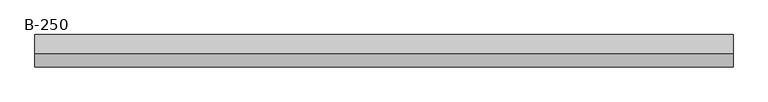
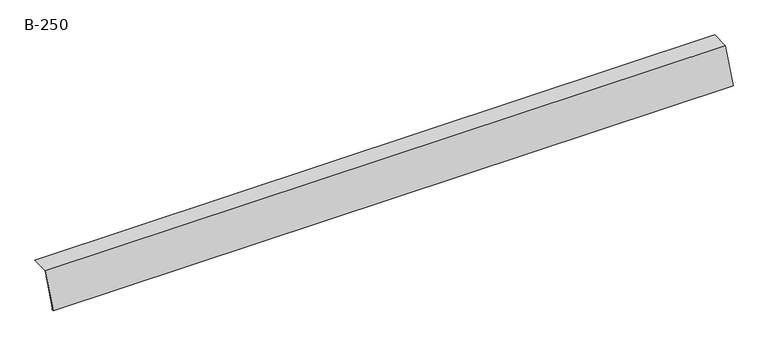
"""IFC4 building model written with IfcOpenShell, lengths in millimetres: proxy geometry, GROVIK_Flashing_Eaves_Custom : B-250."""

from ifc_helpers import new_model, si_unit, frame, origin, place, context, project, spatial, polyline, outline, extrude, source, transform, mapped, element, save


def b_250_ef0d3f13(model_context):
    return source(origin(), model_context, "Body", "SweptSolid", [
        extrude(outline(polyline([(-0.6918582, 0.9880759), (-57.9129574, -148.077984), (-48.2100002, -145.6587651), (-47.9680783, -146.6290608), (-59.5349563, -149.5130074), (-1.3837164, 1.9761518), (78.9530631, 3.3784355), (78.9705155, 2.3785878), (-0.6918582, 0.9880759)])), frame((0.0, 0.0, 0.0), z_axis=(1.0, 0.0, 0.0), x_axis=(0.0, 1.0, 0.0)), (0.0, 0.0, 1.0), 3000.0),
    ])


if __name__ == "__main__":
    model = new_model("IFC4")
    model_context = context("Model", 3, world=origin())
    ifc_project = project(units=[si_unit("LENGTHUNIT", "METRE", prefix="MILLI")], contexts=[model_context])
    site = spatial("IfcSite", under=ifc_project)
    building = spatial("IfcBuilding", under=site)
    placement = place(None, origin())
    b_250_shape = b_250_ef0d3f13(model_context)
    element("IfcBuildingElementProxy", 1, Name="GROVIK_Flashing_Eaves_Custom : B-250", ObjectType="GROVIK_Flashing_Eaves_Custom : B-250", at=placement, inside=building, context=model_context, shape_type="MappedRepresentation", body=[
        mapped(b_250_shape, transform((0.0, 0.0, 0.0), x_axis=(1.0, 0.0, 0.0), y_axis=(0.0, 1.0, 0.0), z_axis=(0.0, 0.0, 1.0))),
    ])
    save(model, "model.ifc")
